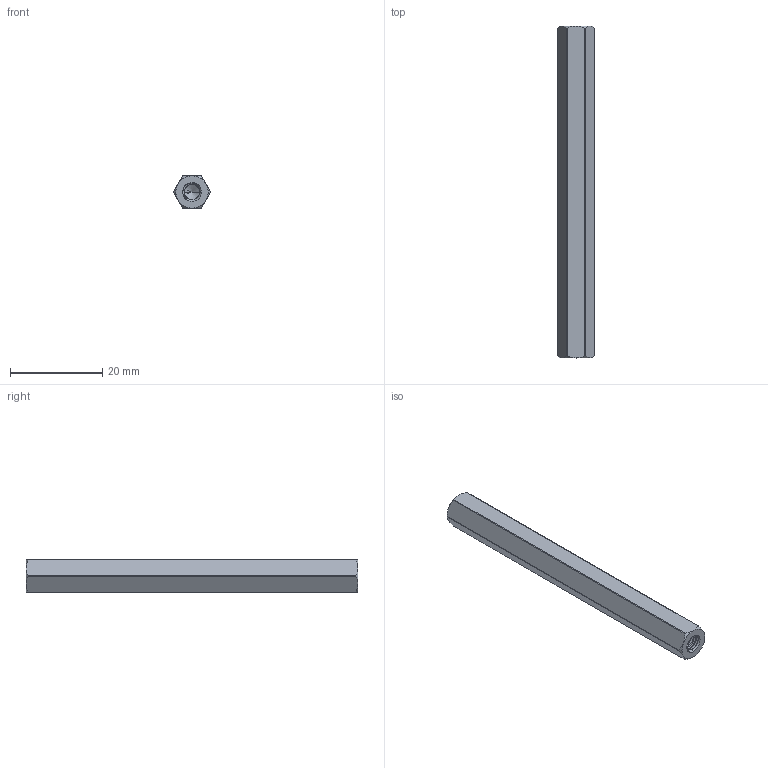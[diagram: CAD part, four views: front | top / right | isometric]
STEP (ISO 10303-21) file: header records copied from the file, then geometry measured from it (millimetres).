
FILE_DESCRIPTION (( 'STEP AP203' ), '1' );
FILE_NAME ('1516-4008-0720.STEP', '2022-08-26T15:03:35', ( '' ), ( '' ), 'SwSTEP 2.0', 'SolidWorks 2016', '' );
FILE_SCHEMA (( 'CONFIG_CONTROL_DESIGN' ));
Length unit declared in the file: millimetre
Products named in the file (1): 1516-4008-0720
Bounding box: 8 x 72 x 7 mm (x, y, z)
Volume: 2837.3 mm3; surface area: 2165.9 mm2
Topology: 1 solids, 1 shells, 148 faces, 422 edges, 274 vertices
Faces by surface type: cylinder 114, cone 20, plane 10, bspline 4
Entity records: 10327 total; most frequent: CARTESIAN_POINT 7087, ORIENTED_EDGE 836, DIRECTION 512, EDGE_CURVE 418, VERTEX_POINT 274, AXIS2_PLACEMENT_3D 193, EDGE_LOOP 150, ADVANCED_FACE 148
